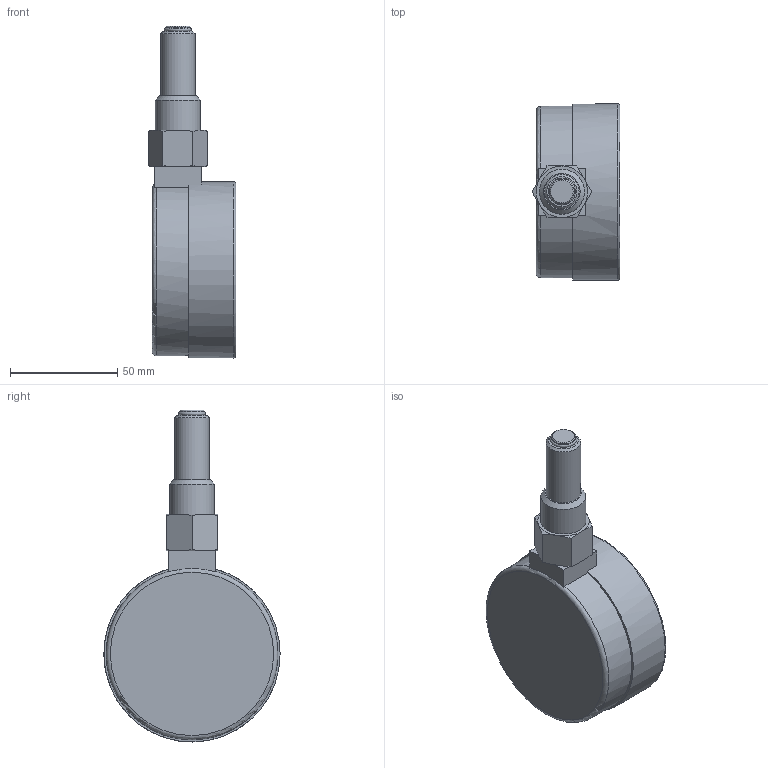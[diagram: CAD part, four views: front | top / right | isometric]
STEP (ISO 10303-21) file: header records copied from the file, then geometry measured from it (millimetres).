
FILE_DESCRIPTION(/* description */ ('ТМТБ-31Р-L46'),/* implementation_level */ '2;1');
FILE_NAME(/* name */ 'C:\STEP\ТМТБ-31Р\ТМТБ-31Р-L46.stp',/* time_stamp */ '2023-05-25T00:30:05+03:00',/* author */ ('Tech'),/* organization */ (''),/* preprocessor_version */ 'ST-DEVELOPER v18.1',/* originating_system */ 'Autodesk Inventor 2021',/* authorisation */ '');
FILE_SCHEMA (('AUTOMOTIVE_DESIGN { 1 0 10303 214 3 1 1 }'));
Length unit declared in the file: millimetre
Products named in the file (1): ТМТБ-31Р-L46
Bounding box: 40.86 x 82 x 154.5 mm (x, y, z)
Volume: 208138.9 mm3; surface area: 31508.2 mm2
Topology: 2 solids, 2 shells, 490 faces, 1205 edges, 805 vertices
Faces by surface type: plane 431, cylinder 21, bspline 18, cone 17, torus 3
Full cylindrical faces by diameter (mm): 0.581 x1, 0.766 x1, 8 x1, 10 x1, 11.5 x1, 14 x1, 16 x2, 17 x1, 18 x1, 20.955 x1, 73 x1, 82 x1
Entity records: 14376 total; most frequent: CARTESIAN_POINT 2797, ORIENTED_EDGE 2410, DIRECTION 2182, EDGE_CURVE 1205, LINE 1050, VECTOR 1050, VERTEX_POINT 805, EDGE_LOOP 576
